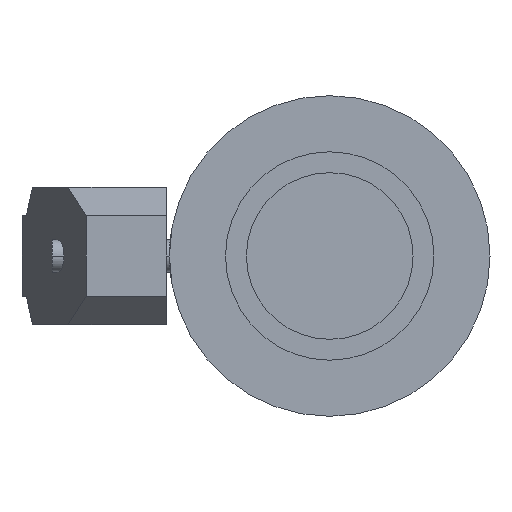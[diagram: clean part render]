
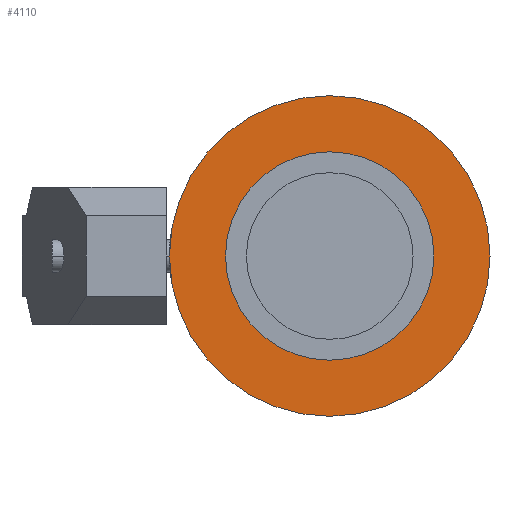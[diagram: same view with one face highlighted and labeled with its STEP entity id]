
A CAD part, left-side view. The second image highlights one B-rep face of the part: STEP entity #4110.
In plain terms, the highlighted planar face has unit normal (-1, 0, 0).
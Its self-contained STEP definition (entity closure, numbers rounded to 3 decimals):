
#940=CARTESIAN_POINT('',(-83.686,59.312,
0.));
#950=VERTEX_POINT('',#940);
#980=CARTESIAN_POINT('',(-83.686,9.312,0.));
#990=DIRECTION('',(-1.,0.,0.));
#1000=DIRECTION('',(0.,-1.,0.));
#1010=AXIS2_PLACEMENT_3D('',#980,#990,#1000);
#1020=CIRCLE('',#1010,50.);
#1030=CARTESIAN_POINT('',(-83.686,-40.688,0.));
#1040=VERTEX_POINT('',#1030);
#1050=EDGE_CURVE('',#950,#1040,#1020,.T.);
#3860=CARTESIAN_POINT('',(-83.686,56.962,0.));
#3870=DIRECTION('',(1.,0.,0.));
#3880=DIRECTION('',(0.,-1.,0.));
#3890=AXIS2_PLACEMENT_3D('',#3860,#3870,#3880);
#3900=PLANE('',#3890);
#3910=EDGE_CURVE('',#1040,#950,#1020,.T.);
#3920=ORIENTED_EDGE('',*,*,#3910,.T.);
#3930=ORIENTED_EDGE('',*,*,#1050,.T.);
#3940=EDGE_LOOP('',(#3930,#3920));
#3950=FACE_OUTER_BOUND('',#3940,.T.);
#3960=CARTESIAN_POINT('',(-83.686,9.312,0.));
#3970=DIRECTION('',(-1.,0.,0.));
#3980=DIRECTION('',(0.,-1.,0.));
#3990=AXIS2_PLACEMENT_3D('',#3960,#3970,#3980);
#4000=CIRCLE('',#3990,30.);
#4010=CARTESIAN_POINT('',(-83.686,-20.688,0.));
#4020=VERTEX_POINT('',#4010);
#4030=CARTESIAN_POINT('',(-83.686,39.312,
0.));
#4040=VERTEX_POINT('',#4030);
#4050=EDGE_CURVE('',#4020,#4040,#4000,.T.);
#4060=ORIENTED_EDGE('',*,*,#4050,.F.);
#4070=EDGE_CURVE('',#4040,#4020,#4000,.T.);
#4080=ORIENTED_EDGE('',*,*,#4070,.F.);
#4090=EDGE_LOOP('',(#4080,#4060));
#4100=FACE_BOUND('',#4090,.T.);
#4110=ADVANCED_FACE('',(#3950,#4100),#3900,.F.);
